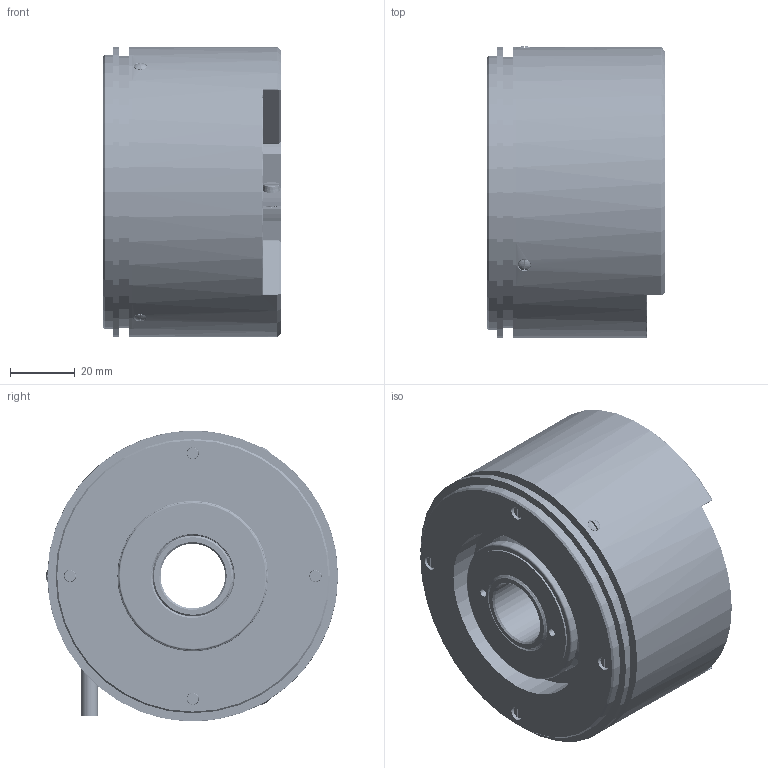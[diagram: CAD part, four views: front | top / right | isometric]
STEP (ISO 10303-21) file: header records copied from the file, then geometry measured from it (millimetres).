
FILE_DESCRIPTION (( 'STEP AP214' ), '1' );
FILE_NAME ('ﾋﾈﾐ-390ﾀ.STEP', '2017-05-23T08:48:32', ( '' ), ( '' ), 'SwSTEP 2.0', 'SolidWorks 2013', '' );
FILE_SCHEMA (( 'AUTOMOTIVE_DESIGN' ));
Length unit declared in the file: millimetre
Products named in the file (1): ﾋﾈﾐ-390ﾀ
Bounding box: 55.05 x 90.47 x 90 mm (x, y, z)
Volume: 173708.7 mm3; surface area: 127608 mm2
Topology: 42 solids, 42 shells, 2915 faces, 8212 edges, 5318 vertices
Faces by surface type: cone 1042, cylinder 902, sphere 428, plane 294, torus 227, bspline 22
Entity records: 150921 total; most frequent: CARTESIAN_POINT 43385, ORIENTED_EDGE 16400, DIRECTION 15860, EDGE_CURVE 8200, AXIS2_PLACEMENT_3D 6854, VERTEX_POINT 5318, CIRCLE 3960, EDGE_LOOP 3200
